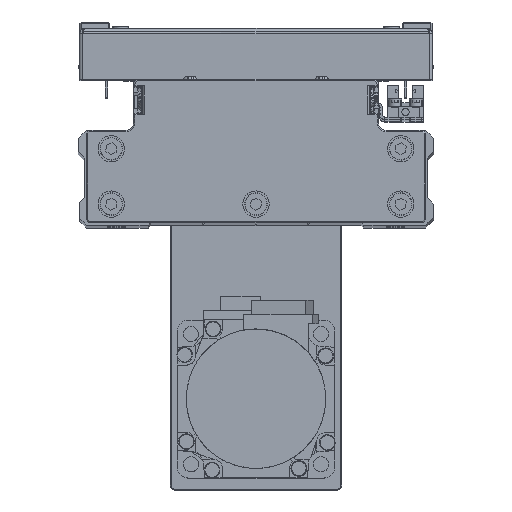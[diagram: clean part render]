
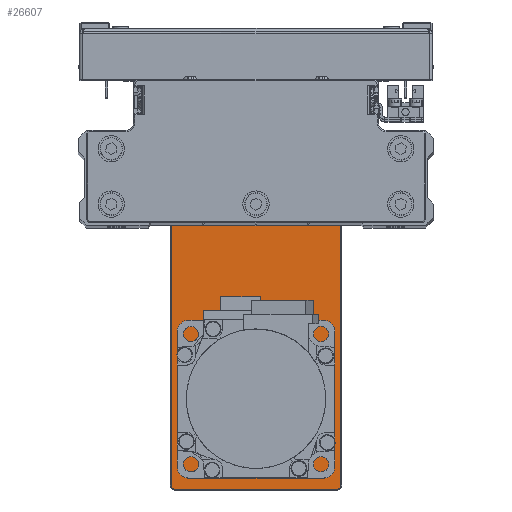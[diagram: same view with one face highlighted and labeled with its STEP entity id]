
A CAD part, top view. The second image highlights one B-rep face of the part: STEP entity #26607.
In plain terms, the highlighted planar face has unit normal (0, 0, 1) as drawn and (0, 1, 0) by its records, which use the part's own axes.
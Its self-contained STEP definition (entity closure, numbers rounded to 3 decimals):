
#196 = DIRECTION ( 'NONE',  ( 0., -1., 0. ) ) ;
#438 = AXIS2_PLACEMENT_3D ( 'NONE', #24816, #38380, #7942 ) ;
#481 = EDGE_LOOP ( 'NONE', ( #28655, #43106, #10949, #3816, #4359, #22691, #17640, #7219 ) ) ;
#817 = DIRECTION ( 'NONE',  ( 0., 0., 1. ) ) ;
#1408 = VERTEX_POINT ( 'NONE', #11110 ) ;
#1724 = AXIS2_PLACEMENT_3D ( 'NONE', #22385, #35942, #5507 ) ;
#1977 = CIRCLE ( 'NONE', #7681, 15. ) ;
#2334 = EDGE_CURVE ( 'NONE', #5189, #3883, #43735, .T. ) ;
#2666 = VERTEX_POINT ( 'NONE', #40674 ) ;
#2689 = VECTOR ( 'NONE', #39433, 1000. ) ;
#2706 = CARTESIAN_POINT ( 'NONE',  ( 75.992, 6., -8.551 ) ) ;
#2931 = CIRCLE ( 'NONE', #8610, 1.2 ) ;
#3518 = FACE_BOUND ( 'NONE', #32018, .T. ) ;
#3816 = ORIENTED_EDGE ( 'NONE', *, *, #8900, .T. ) ;
#3883 = VERTEX_POINT ( 'NONE', #30232 ) ;
#3992 = AXIS2_PLACEMENT_3D ( 'NONE', #40406, #9954, #23510 ) ;
#4194 = EDGE_LOOP ( 'NONE', ( #8408, #20073 ) ) ;
#4359 = ORIENTED_EDGE ( 'NONE', *, *, #37359, .T. ) ;
#4606 = CARTESIAN_POINT ( 'NONE',  ( 84.7, 6., 0. ) ) ;
#5056 = CIRCLE ( 'NONE', #29884, 1.2 ) ;
#5189 = VERTEX_POINT ( 'NONE', #16293 ) ;
#5507 = DIRECTION ( 'NONE',  ( 0., 0., 1. ) ) ;
#5963 = CARTESIAN_POINT ( 'NONE',  ( -83.5, 6., -32.2 ) ) ;
#6645 = AXIS2_PLACEMENT_3D ( 'NONE', #27798, #41369, #10920 ) ;
#6767 = LINE ( 'NONE', #20315, #8161 ) ;
#6865 = FACE_BOUND ( 'NONE', #12892, .T. ) ;
#7219 = ORIENTED_EDGE ( 'NONE', *, *, #18389, .T. ) ;
#7342 = CARTESIAN_POINT ( 'NONE',  ( -83.5, 6., 32.2 ) ) ;
#7374 = EDGE_CURVE ( 'NONE', #38414, #1408, #6767, .T. ) ;
#7681 = AXIS2_PLACEMENT_3D ( 'NONE', #12682, #26233, #39792 ) ;
#7942 = DIRECTION ( 'NONE',  ( 0., 0., -1. ) ) ;
#8161 = VECTOR ( 'NONE', #33871, 1000. ) ;
#8368 = DIRECTION ( 'NONE',  ( 0., 1., 0. ) ) ;
#8408 = ORIENTED_EDGE ( 'NONE', *, *, #34525, .T. ) ;
#8610 = AXIS2_PLACEMENT_3D ( 'NONE', #10542, #24084, #37652 ) ;
#8795 = CIRCLE ( 'NONE', #14482, 10.3 ) ;
#8829 = VECTOR ( 'NONE', #12714, 1000. ) ;
#8900 = EDGE_CURVE ( 'NONE', #39000, #36368, #29606, .T. ) ;
#9712 = CARTESIAN_POINT ( 'NONE',  ( 83.5, 6., -31. ) ) ;
#9954 = DIRECTION ( 'NONE',  ( 0., 1., 0. ) ) ;
#10031 = EDGE_CURVE ( 'NONE', #32903, #2666, #34476, .T. ) ;
#10542 = CARTESIAN_POINT ( 'NONE',  ( -83.5, 6., -31. ) ) ;
#10920 = DIRECTION ( 'NONE',  ( 0., 0., 1. ) ) ;
#10949 = ORIENTED_EDGE ( 'NONE', *, *, #13701, .T. ) ;
#11079 = EDGE_CURVE ( 'NONE', #13040, #19000, #25792, .T. ) ;
#11110 = CARTESIAN_POINT ( 'NONE',  ( 83.5, 6., 32.2 ) ) ;
#11418 = DIRECTION ( 'NONE',  ( 0., 0., -1. ) ) ;
#11711 = EDGE_CURVE ( 'NONE', #2666, #32903, #20881, .T. ) ;
#11778 = AXIS2_PLACEMENT_3D ( 'NONE', #30605, #196, #13730 ) ;
#12316 = LINE ( 'NONE', #25870, #2689 ) ;
#12682 = CARTESIAN_POINT ( 'NONE',  ( -50.5, 6., 0. ) ) ;
#12714 = DIRECTION ( 'NONE',  ( 0., 0., 1. ) ) ;
#12892 = EDGE_LOOP ( 'NONE', ( #13910, #35095 ) ) ;
#12993 = DIRECTION ( 'NONE',  ( 0., 0., -1. ) ) ;
#13040 = VERTEX_POINT ( 'NONE', #32618 ) ;
#13701 = EDGE_CURVE ( 'NONE', #43652, #39000, #2931, .T. ) ;
#13730 = DIRECTION ( 'NONE',  ( 0., 0., -1. ) ) ;
#13910 = ORIENTED_EDGE ( 'NONE', *, *, #15442, .F. ) ;
#14371 = CARTESIAN_POINT ( 'NONE',  ( 52.5, 6., -10.3 ) ) ;
#14482 = AXIS2_PLACEMENT_3D ( 'NONE', #28299, #41867, #11418 ) ;
#15211 = EDGE_CURVE ( 'NONE', #40862, #20209, #5056, .T. ) ;
#15292 = AXIS2_PLACEMENT_3D ( 'NONE', #38817, #8368, #21914 ) ;
#15442 = EDGE_CURVE ( 'NONE', #3883, #5189, #15699, .T. ) ;
#15699 = CIRCLE ( 'NONE', #40560, 1.525 ) ;
#16237 = DIRECTION ( 'NONE',  ( 0., 1., 0. ) ) ;
#16293 = CARTESIAN_POINT ( 'NONE',  ( 75.992, 6., -10.076 ) ) ;
#16649 = AXIS2_PLACEMENT_3D ( 'NONE', #29878, #43454, #12993 ) ;
#17053 = PLANE ( 'NONE',  #11778 ) ;
#17640 = ORIENTED_EDGE ( 'NONE', *, *, #23308, .T. ) ;
#17700 = CARTESIAN_POINT ( 'NONE',  ( 75.992, 6., -8.551 ) ) ;
#18116 = ORIENTED_EDGE ( 'NONE', *, *, #39415, .F. ) ;
#18153 = DIRECTION ( 'NONE',  ( 0., 0., -1. ) ) ;
#18389 = EDGE_CURVE ( 'NONE', #26964, #40862, #35057, .T. ) ;
#19000 = VERTEX_POINT ( 'NONE', #21977 ) ;
#19462 = CARTESIAN_POINT ( 'NONE',  ( 84.7, 6., 31. ) ) ;
#19587 = CIRCLE ( 'NONE', #438, 1.2 ) ;
#20073 = ORIENTED_EDGE ( 'NONE', *, *, #32033, .T. ) ;
#20209 = VERTEX_POINT ( 'NONE', #20293 ) ;
#20293 = CARTESIAN_POINT ( 'NONE',  ( 83.5, 6., -32.2 ) ) ;
#20315 = CARTESIAN_POINT ( 'NONE',  ( 0., 6., 32.2 ) ) ;
#20411 = FACE_BOUND ( 'NONE', #4194, .T. ) ;
#20881 = CIRCLE ( 'NONE', #1724, 1.525 ) ;
#21366 = CARTESIAN_POINT ( 'NONE',  ( -84.7, 6., 31. ) ) ;
#21914 = DIRECTION ( 'NONE',  ( 0., 0., 1. ) ) ;
#21977 = CARTESIAN_POINT ( 'NONE',  ( -50.5, 6., -15. ) ) ;
#22385 = CARTESIAN_POINT ( 'NONE',  ( 61.051, 6., 23.492 ) ) ;
#22691 = ORIENTED_EDGE ( 'NONE', *, *, #7374, .T. ) ;
#23146 = CIRCLE ( 'NONE', #3992, 1.2 ) ;
#23267 = DIRECTION ( 'NONE',  ( 0., 1., 0. ) ) ;
#23308 = EDGE_CURVE ( 'NONE', #1408, #26964, #23146, .T. ) ;
#23510 = DIRECTION ( 'NONE',  ( 0., 0., -1. ) ) ;
#24084 = DIRECTION ( 'NONE',  ( 0., 1., 0. ) ) ;
#24570 = AXIS2_PLACEMENT_3D ( 'NONE', #2706, #16237, #29785 ) ;
#24816 = CARTESIAN_POINT ( 'NONE',  ( -83.5, 6., 31. ) ) ;
#25281 = EDGE_LOOP ( 'NONE', ( #26556, #39200 ) ) ;
#25792 = CIRCLE ( 'NONE', #6645, 15. ) ;
#25870 = CARTESIAN_POINT ( 'NONE',  ( 0., 6., -32.2 ) ) ;
#26233 = DIRECTION ( 'NONE',  ( 0., 1., 0. ) ) ;
#26556 = ORIENTED_EDGE ( 'NONE', *, *, #10031, .F. ) ;
#26607 = ADVANCED_FACE ( 'NONE', ( #37295, #6865, #20411, #33959, #3518 ), #17053, .F. ) ;
#26964 = VERTEX_POINT ( 'NONE', #19462 ) ;
#27798 = CARTESIAN_POINT ( 'NONE',  ( -50.5, 6., 0. ) ) ;
#28299 = CARTESIAN_POINT ( 'NONE',  ( 52.5, 6., 0. ) ) ;
#28504 = EDGE_CURVE ( 'NONE', #20209, #43652, #12316, .T. ) ;
#28655 = ORIENTED_EDGE ( 'NONE', *, *, #15211, .T. ) ;
#28926 = CARTESIAN_POINT ( 'NONE',  ( 52.5, 6., 10.3 ) ) ;
#28998 = VERTEX_POINT ( 'NONE', #28926 ) ;
#29390 = CARTESIAN_POINT ( 'NONE',  ( -84.7, 6., -31. ) ) ;
#29606 = LINE ( 'NONE', #43175, #8829 ) ;
#29785 = DIRECTION ( 'NONE',  ( 0., 0., 1. ) ) ;
#29878 = CARTESIAN_POINT ( 'NONE',  ( 52.5, 6., 0. ) ) ;
#29884 = AXIS2_PLACEMENT_3D ( 'NONE', #9712, #23267, #36815 ) ;
#30232 = CARTESIAN_POINT ( 'NONE',  ( 75.992, 6., -7.026 ) ) ;
#30605 = CARTESIAN_POINT ( 'NONE',  ( 0., 6., 0. ) ) ;
#31255 = DIRECTION ( 'NONE',  ( 0., 1., 0. ) ) ;
#32018 = EDGE_LOOP ( 'NONE', ( #36744, #18116 ) ) ;
#32033 = EDGE_CURVE ( 'NONE', #34369, #28998, #8795, .T. ) ;
#32354 = CARTESIAN_POINT ( 'NONE',  ( 84.7, 6., -31. ) ) ;
#32618 = CARTESIAN_POINT ( 'NONE',  ( -50.5, 6., 15. ) ) ;
#32903 = VERTEX_POINT ( 'NONE', #35726 ) ;
#33871 = DIRECTION ( 'NONE',  ( 1., 0., 0. ) ) ;
#33959 = FACE_OUTER_BOUND ( 'NONE', #481, .T. ) ;
#34369 = VERTEX_POINT ( 'NONE', #14371 ) ;
#34476 = CIRCLE ( 'NONE', #15292, 1.525 ) ;
#34525 = EDGE_CURVE ( 'NONE', #28998, #34369, #35810, .T. ) ;
#35057 = LINE ( 'NONE', #4606, #37875 ) ;
#35095 = ORIENTED_EDGE ( 'NONE', *, *, #2334, .F. ) ;
#35726 = CARTESIAN_POINT ( 'NONE',  ( 61.051, 6., 25.017 ) ) ;
#35810 = CIRCLE ( 'NONE', #16649, 10.3 ) ;
#35942 = DIRECTION ( 'NONE',  ( 0., 1., 0. ) ) ;
#36368 = VERTEX_POINT ( 'NONE', #21366 ) ;
#36744 = ORIENTED_EDGE ( 'NONE', *, *, #11079, .F. ) ;
#36815 = DIRECTION ( 'NONE',  ( 0., 0., -1. ) ) ;
#37295 = FACE_BOUND ( 'NONE', #25281, .T. ) ;
#37359 = EDGE_CURVE ( 'NONE', #36368, #38414, #19587, .T. ) ;
#37652 = DIRECTION ( 'NONE',  ( 0., 0., -1. ) ) ;
#37875 = VECTOR ( 'NONE', #18153, 1000. ) ;
#38380 = DIRECTION ( 'NONE',  ( 0., 1., 0. ) ) ;
#38414 = VERTEX_POINT ( 'NONE', #7342 ) ;
#38817 = CARTESIAN_POINT ( 'NONE',  ( 61.051, 6., 23.492 ) ) ;
#39000 = VERTEX_POINT ( 'NONE', #29390 ) ;
#39200 = ORIENTED_EDGE ( 'NONE', *, *, #11711, .F. ) ;
#39415 = EDGE_CURVE ( 'NONE', #19000, #13040, #1977, .T. ) ;
#39433 = DIRECTION ( 'NONE',  ( -1., 0., 0. ) ) ;
#39792 = DIRECTION ( 'NONE',  ( 0., 0., 1. ) ) ;
#40406 = CARTESIAN_POINT ( 'NONE',  ( 83.5, 6., 31. ) ) ;
#40560 = AXIS2_PLACEMENT_3D ( 'NONE', #17700, #31255, #817 ) ;
#40674 = CARTESIAN_POINT ( 'NONE',  ( 61.051, 6., 21.967 ) ) ;
#40862 = VERTEX_POINT ( 'NONE', #32354 ) ;
#41369 = DIRECTION ( 'NONE',  ( 0., 1., 0. ) ) ;
#41867 = DIRECTION ( 'NONE',  ( 0., -1., 0. ) ) ;
#43106 = ORIENTED_EDGE ( 'NONE', *, *, #28504, .T. ) ;
#43175 = CARTESIAN_POINT ( 'NONE',  ( -84.7, 6., 0. ) ) ;
#43454 = DIRECTION ( 'NONE',  ( 0., -1., 0. ) ) ;
#43652 = VERTEX_POINT ( 'NONE', #5963 ) ;
#43735 = CIRCLE ( 'NONE', #24570, 1.525 ) ;
